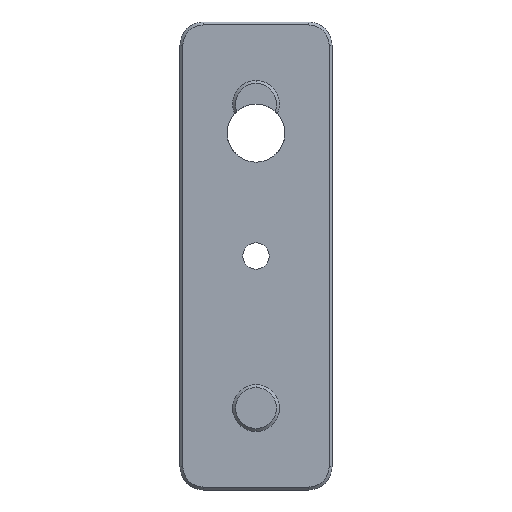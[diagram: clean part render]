
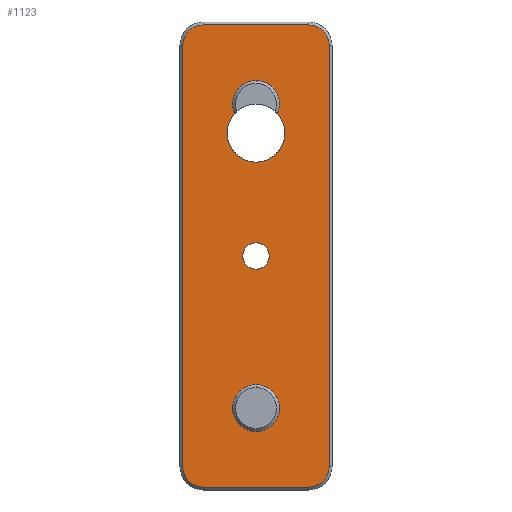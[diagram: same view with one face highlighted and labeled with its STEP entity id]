
A CAD part, front view. The second image highlights one B-rep face of the part: STEP entity #1123.
In plain terms, the highlighted planar face has unit normal (0, -1, 0).
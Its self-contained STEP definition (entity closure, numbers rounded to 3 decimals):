
#5 = DIRECTION ( 'NONE',  ( 0., 1., 0. ) ) ;
#8 = VERTEX_POINT ( 'NONE', #404 ) ;
#18 = EDGE_CURVE ( 'NONE', #674, #80, #293, .T. ) ;
#27 = LINE ( 'NONE', #542, #1068 ) ;
#42 = VERTEX_POINT ( 'NONE', #467 ) ;
#65 = CARTESIAN_POINT ( 'NONE',  ( 0., 0., 30. ) ) ;
#73 = LINE ( 'NONE', #925, #964 ) ;
#78 = CIRCLE ( 'NONE', #350, 3.5 ) ;
#80 = VERTEX_POINT ( 'NONE', #383 ) ;
#97 = DIRECTION ( 'NONE',  ( 0., -1., 0. ) ) ;
#108 = CARTESIAN_POINT ( 'NONE',  ( 0., 0., 39.5 ) ) ;
#110 = EDGE_CURVE ( 'NONE', #8, #969, #1212, .T. ) ;
#111 = DIRECTION ( 'NONE',  ( 0., 0., 1. ) ) ;
#123 = CARTESIAN_POINT ( 'NONE',  ( -9., 0., 39.5 ) ) ;
#138 = FACE_BOUND ( 'NONE', #813, .T. ) ;
#153 = CIRCLE ( 'NONE', #162, 2.25 ) ;
#162 = AXIS2_PLACEMENT_3D ( 'NONE', #712, #227, #1043 ) ;
#168 = EDGE_CURVE ( 'NONE', #1139, #80, #200, .T. ) ;
#191 = DIRECTION ( 'NONE',  ( 0., 0., 1. ) ) ;
#199 = EDGE_CURVE ( 'NONE', #823, #674, #494, .T. ) ;
#200 = CIRCLE ( 'NONE', #1039, 4.95 ) ;
#207 = AXIS2_PLACEMENT_3D ( 'NONE', #1087, #844, #714 ) ;
#212 = CARTESIAN_POINT ( 'NONE',  ( 0., 0., -26. ) ) ;
#222 = ORIENTED_EDGE ( 'NONE', *, *, #1032, .F. ) ;
#224 = EDGE_CURVE ( 'NONE', #1232, #798, #27, .T. ) ;
#227 = DIRECTION ( 'NONE',  ( 0., 1., 0. ) ) ;
#243 = CARTESIAN_POINT ( 'NONE',  ( -9., 0., -39.5 ) ) ;
#250 = ORIENTED_EDGE ( 'NONE', *, *, #630, .T. ) ;
#253 = ORIENTED_EDGE ( 'NONE', *, *, #199, .F. ) ;
#267 = CARTESIAN_POINT ( 'NONE',  ( 0., 0., 21. ) ) ;
#270 = EDGE_LOOP ( 'NONE', ( #253, #682, #592, #851 ) ) ;
#285 = EDGE_CURVE ( 'NONE', #583, #735, #1134, .T. ) ;
#290 = CARTESIAN_POINT ( 'NONE',  ( -9., 0., 36. ) ) ;
#293 = CIRCLE ( 'NONE', #849, 4. ) ;
#295 = DIRECTION ( 'NONE',  ( 0., 0., 1. ) ) ;
#306 = DIRECTION ( 'NONE',  ( 0., 0., 1. ) ) ;
#314 = VERTEX_POINT ( 'NONE', #739 ) ;
#350 = AXIS2_PLACEMENT_3D ( 'NONE', #358, #1307, #489 ) ;
#358 = CARTESIAN_POINT ( 'NONE',  ( 9., 0., -36. ) ) ;
#359 = CARTESIAN_POINT ( 'NONE',  ( -12.5, 0., -36. ) ) ;
#374 = CARTESIAN_POINT ( 'NONE',  ( 0., 0., -30. ) ) ;
#383 = CARTESIAN_POINT ( 'NONE',  ( -3.644, 0., 24.35 ) ) ;
#387 = DIRECTION ( 'NONE',  ( 0., -1., 0. ) ) ;
#395 = DIRECTION ( 'NONE',  ( 0., -1., 0. ) ) ;
#397 = CARTESIAN_POINT ( 'NONE',  ( 0., 0., 0. ) ) ;
#399 = ORIENTED_EDGE ( 'NONE', *, *, #285, .F. ) ;
#400 = FACE_BOUND ( 'NONE', #691, .T. ) ;
#402 = DIRECTION ( 'NONE',  ( 0., 1., 0. ) ) ;
#404 = CARTESIAN_POINT ( 'NONE',  ( 9., 0., 39.5 ) ) ;
#423 = DIRECTION ( 'NONE',  ( 1., 0., 0. ) ) ;
#436 = ORIENTED_EDGE ( 'NONE', *, *, #910, .T. ) ;
#445 = ORIENTED_EDGE ( 'NONE', *, *, #1084, .T. ) ;
#446 = CIRCLE ( 'NONE', #452, 3.5 ) ;
#449 = EDGE_CURVE ( 'NONE', #556, #314, #153, .T. ) ;
#452 = AXIS2_PLACEMENT_3D ( 'NONE', #794, #97, #1000 ) ;
#462 = CIRCLE ( 'NONE', #974, 3.5 ) ;
#465 = CARTESIAN_POINT ( 'NONE',  ( -12.5, 0., 36. ) ) ;
#467 = CARTESIAN_POINT ( 'NONE',  ( 12.5, 0., -36. ) ) ;
#471 = DIRECTION ( 'NONE',  ( 0., 0., 1. ) ) ;
#489 = DIRECTION ( 'NONE',  ( 0., 0., 1. ) ) ;
#494 = CIRCLE ( 'NONE', #1177, 4. ) ;
#507 = CIRCLE ( 'NONE', #946, 3.5 ) ;
#542 = CARTESIAN_POINT ( 'NONE',  ( -12.5, 0., 0. ) ) ;
#556 = VERTEX_POINT ( 'NONE', #979 ) ;
#559 = AXIS2_PLACEMENT_3D ( 'NONE', #1122, #402, #1014 ) ;
#575 = CARTESIAN_POINT ( 'NONE',  ( 0., 0., 26. ) ) ;
#583 = VERTEX_POINT ( 'NONE', #374 ) ;
#592 = ORIENTED_EDGE ( 'NONE', *, *, #168, .T. ) ;
#626 = VERTEX_POINT ( 'NONE', #1191 ) ;
#628 = ORIENTED_EDGE ( 'NONE', *, *, #1057, .T. ) ;
#630 = EDGE_CURVE ( 'NONE', #798, #1172, #446, .T. ) ;
#648 = DIRECTION ( 'NONE',  ( 0., 0., 1. ) ) ;
#652 = DIRECTION ( 'NONE',  ( 0., 0., -1. ) ) ;
#656 = FACE_BOUND ( 'NONE', #270, .T. ) ;
#660 = DIRECTION ( 'NONE',  ( 0., 0., 1. ) ) ;
#674 = VERTEX_POINT ( 'NONE', #65 ) ;
#680 = VERTEX_POINT ( 'NONE', #1058 ) ;
#682 = ORIENTED_EDGE ( 'NONE', *, *, #1027, .T. ) ;
#691 = EDGE_LOOP ( 'NONE', ( #628, #1249 ) ) ;
#712 = CARTESIAN_POINT ( 'NONE',  ( 0., 0., 0. ) ) ;
#714 = DIRECTION ( 'NONE',  ( 0., 0., 1. ) ) ;
#719 = EDGE_CURVE ( 'NONE', #42, #626, #899, .T. ) ;
#735 = VERTEX_POINT ( 'NONE', #1169 ) ;
#739 = CARTESIAN_POINT ( 'NONE',  ( 0., 0., 2.25 ) ) ;
#759 = AXIS2_PLACEMENT_3D ( 'NONE', #212, #797, #111 ) ;
#782 = CARTESIAN_POINT ( 'NONE',  ( 0., 0., 16.05 ) ) ;
#794 = CARTESIAN_POINT ( 'NONE',  ( -9., 0., -36. ) ) ;
#795 = DIRECTION ( 'NONE',  ( -1., 0., 0. ) ) ;
#797 = DIRECTION ( 'NONE',  ( 0., -1., 0. ) ) ;
#798 = VERTEX_POINT ( 'NONE', #359 ) ;
#813 = EDGE_LOOP ( 'NONE', ( #222, #399 ) ) ;
#823 = VERTEX_POINT ( 'NONE', #1308 ) ;
#833 = AXIS2_PLACEMENT_3D ( 'NONE', #397, #1012, #306 ) ;
#844 = DIRECTION ( 'NONE',  ( 0., -1., 0. ) ) ;
#849 = AXIS2_PLACEMENT_3D ( 'NONE', #1293, #1090, #471 ) ;
#851 = ORIENTED_EDGE ( 'NONE', *, *, #18, .F. ) ;
#861 = DIRECTION ( 'NONE',  ( 0., 1., 0. ) ) ;
#877 = ORIENTED_EDGE ( 'NONE', *, *, #719, .T. ) ;
#890 = DIRECTION ( 'NONE',  ( 0., -1., 0. ) ) ;
#899 = LINE ( 'NONE', #1062, #921 ) ;
#910 = EDGE_CURVE ( 'NONE', #1172, #680, #73, .T. ) ;
#915 = CIRCLE ( 'NONE', #759, 4. ) ;
#921 = VECTOR ( 'NONE', #648, 1000. ) ;
#925 = CARTESIAN_POINT ( 'NONE',  ( 0., 0., -39.5 ) ) ;
#946 = AXIS2_PLACEMENT_3D ( 'NONE', #290, #890, #191 ) ;
#964 = VECTOR ( 'NONE', #423, 1000. ) ;
#969 = VERTEX_POINT ( 'NONE', #123 ) ;
#974 = AXIS2_PLACEMENT_3D ( 'NONE', #1117, #395, #1004 ) ;
#979 = CARTESIAN_POINT ( 'NONE',  ( 0., 0., -2.25 ) ) ;
#985 = VECTOR ( 'NONE', #795, 1000. ) ;
#987 = ORIENTED_EDGE ( 'NONE', *, *, #1189, .T. ) ;
#998 = CARTESIAN_POINT ( 'NONE',  ( 0., 0., 0. ) ) ;
#1000 = DIRECTION ( 'NONE',  ( 0., 0., 1. ) ) ;
#1004 = DIRECTION ( 'NONE',  ( 0., 0., 1. ) ) ;
#1012 = DIRECTION ( 'NONE',  ( 0., 1., 0. ) ) ;
#1014 = DIRECTION ( 'NONE',  ( 0., 0., 1. ) ) ;
#1027 = EDGE_CURVE ( 'NONE', #823, #1139, #1262, .T. ) ;
#1032 = EDGE_CURVE ( 'NONE', #735, #583, #915, .T. ) ;
#1038 = EDGE_LOOP ( 'NONE', ( #1216, #1284, #250, #436, #987, #877, #445, #1306 ) ) ;
#1039 = AXIS2_PLACEMENT_3D ( 'NONE', #267, #861, #1080 ) ;
#1043 = DIRECTION ( 'NONE',  ( 0., 0., 1. ) ) ;
#1057 = EDGE_CURVE ( 'NONE', #314, #556, #1066, .T. ) ;
#1058 = CARTESIAN_POINT ( 'NONE',  ( 9., 0., -39.5 ) ) ;
#1062 = CARTESIAN_POINT ( 'NONE',  ( 12.5, 0., 0. ) ) ;
#1066 = CIRCLE ( 'NONE', #833, 2.25 ) ;
#1068 = VECTOR ( 'NONE', #652, 1000. ) ;
#1080 = DIRECTION ( 'NONE',  ( 0., 0., 1. ) ) ;
#1084 = EDGE_CURVE ( 'NONE', #626, #8, #462, .T. ) ;
#1087 = CARTESIAN_POINT ( 'NONE',  ( 0., 0., -26. ) ) ;
#1090 = DIRECTION ( 'NONE',  ( 0., -1., 0. ) ) ;
#1110 = PLANE ( 'NONE',  #1254 ) ;
#1117 = CARTESIAN_POINT ( 'NONE',  ( 9., 0., 36. ) ) ;
#1122 = CARTESIAN_POINT ( 'NONE',  ( 0., 0., 21. ) ) ;
#1123 = ADVANCED_FACE ( 'NONE', ( #400, #1218, #138, #656 ), #1110, .F. ) ;
#1134 = CIRCLE ( 'NONE', #207, 4. ) ;
#1139 = VERTEX_POINT ( 'NONE', #782 ) ;
#1169 = CARTESIAN_POINT ( 'NONE',  ( 0., 0., -22. ) ) ;
#1172 = VERTEX_POINT ( 'NONE', #243 ) ;
#1177 = AXIS2_PLACEMENT_3D ( 'NONE', #575, #387, #660 ) ;
#1189 = EDGE_CURVE ( 'NONE', #680, #42, #78, .T. ) ;
#1191 = CARTESIAN_POINT ( 'NONE',  ( 12.5, 0., 36. ) ) ;
#1212 = LINE ( 'NONE', #108, #985 ) ;
#1216 = ORIENTED_EDGE ( 'NONE', *, *, #1260, .T. ) ;
#1218 = FACE_OUTER_BOUND ( 'NONE', #1038, .T. ) ;
#1232 = VERTEX_POINT ( 'NONE', #465 ) ;
#1249 = ORIENTED_EDGE ( 'NONE', *, *, #449, .T. ) ;
#1254 = AXIS2_PLACEMENT_3D ( 'NONE', #998, #5, #295 ) ;
#1260 = EDGE_CURVE ( 'NONE', #969, #1232, #507, .T. ) ;
#1262 = CIRCLE ( 'NONE', #559, 4.95 ) ;
#1284 = ORIENTED_EDGE ( 'NONE', *, *, #224, .T. ) ;
#1293 = CARTESIAN_POINT ( 'NONE',  ( 0., 0., 26. ) ) ;
#1306 = ORIENTED_EDGE ( 'NONE', *, *, #110, .T. ) ;
#1307 = DIRECTION ( 'NONE',  ( 0., -1., 0. ) ) ;
#1308 = CARTESIAN_POINT ( 'NONE',  ( 3.644, 0., 24.35 ) ) ;
